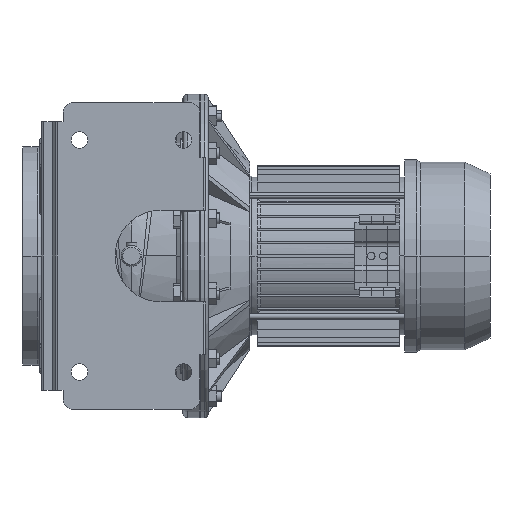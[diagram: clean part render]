
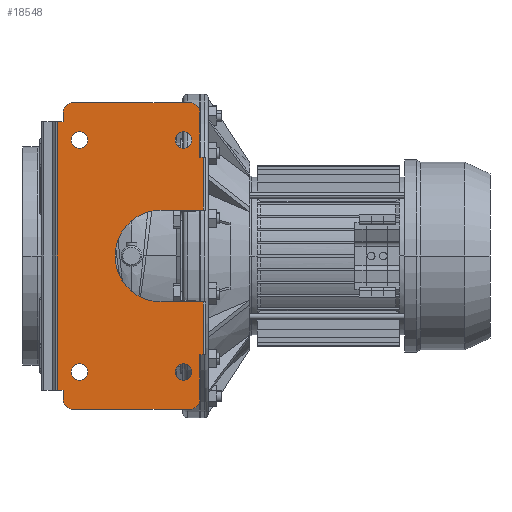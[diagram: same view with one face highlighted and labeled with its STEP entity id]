
A CAD part, front view. The second image highlights one B-rep face of the part: STEP entity #18548.
In plain terms, the highlighted planar face has unit normal (0, -1, 0).
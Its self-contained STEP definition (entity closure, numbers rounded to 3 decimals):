
#15609=CARTESIAN_POINT('',(47.5,-160.,-106.));
#15610=DIRECTION('',(0.,-1.,0.));
#15611=DIRECTION('',(1.,0.,0.));
#15612=AXIS2_PLACEMENT_3D('',#15609,#15610,#15611);
#15614=CARTESIAN_POINT('',(47.5,-160.,-106.));
#15615=DIRECTION('',(0.,-1.,0.));
#15616=DIRECTION('',(-1.,0.,0.));
#15617=AXIS2_PLACEMENT_3D('',#15614,#15615,#15616);
#15619=CARTESIAN_POINT('',(-47.5,-160.,-106.));
#15620=DIRECTION('',(0.,-1.,0.));
#15621=DIRECTION('',(1.,0.,0.));
#15622=AXIS2_PLACEMENT_3D('',#15619,#15620,#15621);
#15624=CARTESIAN_POINT('',(-47.5,-160.,-106.));
#15625=DIRECTION('',(0.,-1.,0.));
#15626=DIRECTION('',(-1.,0.,0.));
#15627=AXIS2_PLACEMENT_3D('',#15624,#15625,#15626);
#15629=CARTESIAN_POINT('',(47.5,-160.,106.));
#15630=DIRECTION('',(0.,-1.,0.));
#15631=DIRECTION('',(1.,0.,0.));
#15632=AXIS2_PLACEMENT_3D('',#15629,#15630,#15631);
#15634=CARTESIAN_POINT('',(47.5,-160.,106.));
#15635=DIRECTION('',(0.,-1.,0.));
#15636=DIRECTION('',(-1.,0.,0.));
#15637=AXIS2_PLACEMENT_3D('',#15634,#15635,#15636);
#15639=CARTESIAN_POINT('',(-47.5,-160.,106.));
#15640=DIRECTION('',(0.,-1.,0.));
#15641=DIRECTION('',(1.,0.,0.));
#15642=AXIS2_PLACEMENT_3D('',#15639,#15640,#15641);
#15644=CARTESIAN_POINT('',(-47.5,-160.,106.));
#15645=DIRECTION('',(0.,-1.,0.));
#15646=DIRECTION('',(-1.,0.,0.));
#15647=AXIS2_PLACEMENT_3D('',#15644,#15645,#15646);
#15649=DIRECTION('',(0.,0.,1.));
#15650=VECTOR('',#15649,48.);
#15651=CARTESIAN_POINT('',(65.5,-160.,-90.));
#15652=LINE('',#15651,#15650);
#15653=DIRECTION('',(0.,0.,-1.));
#15654=VECTOR('',#15653,41.);
#15655=CARTESIAN_POINT('',(62.5,-160.,-90.));
#15656=LINE('',#15655,#15654);
#15657=CARTESIAN_POINT('',(53.5,-160.,-131.));
#15658=DIRECTION('',(0.,-1.,0.));
#15659=DIRECTION('',(0.,0.,-1.));
#15660=AXIS2_PLACEMENT_3D('',#15657,#15658,#15659);
#15662=DIRECTION('',(-1.,0.,0.));
#15663=VECTOR('',#15662,107.);
#15664=CARTESIAN_POINT('',(53.5,-160.,-140.));
#15665=LINE('',#15664,#15663);
#15666=CARTESIAN_POINT('',(-53.5,-160.,-131.));
#15667=DIRECTION('',(0.,-1.,0.));
#15668=DIRECTION('',(-1.,0.,0.));
#15669=AXIS2_PLACEMENT_3D('',#15666,#15667,#15668);
#15671=DIRECTION('',(0.,0.,1.));
#15672=VECTOR('',#15671,8.5);
#15673=CARTESIAN_POINT('',(-62.5,-160.,-131.));
#15674=LINE('',#15673,#15672);
#15675=DIRECTION('',(-1.,0.,0.));
#15676=VECTOR('',#15675,5.172);
#15677=CARTESIAN_POINT('',(-62.5,-160.,-122.5));
#15678=LINE('',#15677,#15676);
#15679=DIRECTION('',(0.,0.,-1.));
#15680=VECTOR('',#15679,245.);
#15681=CARTESIAN_POINT('',(-67.672,-160.,122.5));
#15682=LINE('',#15681,#15680);
#15683=DIRECTION('',(1.,0.,0.));
#15684=VECTOR('',#15683,5.172);
#15685=CARTESIAN_POINT('',(-67.672,-160.,122.5));
#15686=LINE('',#15685,#15684);
#15687=DIRECTION('',(0.,0.,1.));
#15688=VECTOR('',#15687,8.5);
#15689=CARTESIAN_POINT('',(-62.5,-160.,122.5));
#15690=LINE('',#15689,#15688);
#15691=CARTESIAN_POINT('',(-53.5,-160.,131.));
#15692=DIRECTION('',(0.,-1.,0.));
#15693=DIRECTION('',(0.,0.,1.));
#15694=AXIS2_PLACEMENT_3D('',#15691,#15692,#15693);
#15696=DIRECTION('',(1.,0.,0.));
#15697=VECTOR('',#15696,107.);
#15698=CARTESIAN_POINT('',(-53.5,-160.,140.));
#15699=LINE('',#15698,#15697);
#15700=CARTESIAN_POINT('',(53.5,-160.,131.));
#15701=DIRECTION('',(0.,-1.,0.));
#15702=DIRECTION('',(1.,0.,0.));
#15703=AXIS2_PLACEMENT_3D('',#15700,#15701,#15702);
#15705=DIRECTION('',(0.,0.,-1.));
#15706=VECTOR('',#15705,41.);
#15707=CARTESIAN_POINT('',(62.5,-160.,131.));
#15708=LINE('',#15707,#15706);
#15709=DIRECTION('',(0.,0.,1.));
#15710=VECTOR('',#15709,48.);
#15711=CARTESIAN_POINT('',(65.5,-160.,42.));
#15712=LINE('',#15711,#15710);
#15713=CARTESIAN_POINT('',(27.,-160.,0.));
#15714=DIRECTION('',(0.,-1.,0.));
#15715=DIRECTION('',(0.,0.,1.));
#15716=AXIS2_PLACEMENT_3D('',#15713,#15714,#15715);
#15760=DIRECTION('',(1.,0.,0.));
#15761=VECTOR('',#15760,38.5);
#15762=CARTESIAN_POINT('',(27.,-160.,42.));
#15763=LINE('',#15762,#15761);
#15821=DIRECTION('',(-1.,0.,0.));
#15822=VECTOR('',#15821,38.5);
#15823=CARTESIAN_POINT('',(65.5,-160.,-42.));
#15824=LINE('',#15823,#15822);
#16622=DIRECTION('',(1.,0.,0.));
#16623=VECTOR('',#16622,3.);
#16624=CARTESIAN_POINT('',(62.5,-160.,-90.));
#16625=LINE('',#16624,#16623);
#16651=DIRECTION('',(-1.,0.,0.));
#16652=VECTOR('',#16651,3.);
#16653=CARTESIAN_POINT('',(65.5,-160.,90.));
#16654=LINE('',#16653,#16652);
#17395=CARTESIAN_POINT('',(-40.,-160.,106.));
#17396=CARTESIAN_POINT('',(-55.,-160.,106.));
#17397=VERTEX_POINT('',#17395);
#17398=VERTEX_POINT('',#17396);
#17399=CARTESIAN_POINT('',(55.,-160.,106.));
#17400=CARTESIAN_POINT('',(40.,-160.,106.));
#17401=VERTEX_POINT('',#17399);
#17402=VERTEX_POINT('',#17400);
#17403=CARTESIAN_POINT('',(-40.,-160.,-106.));
#17404=CARTESIAN_POINT('',(-55.,-160.,-106.));
#17405=VERTEX_POINT('',#17403);
#17406=VERTEX_POINT('',#17404);
#17407=CARTESIAN_POINT('',(55.,-160.,-106.));
#17408=CARTESIAN_POINT('',(40.,-160.,-106.));
#17409=VERTEX_POINT('',#17407);
#17410=VERTEX_POINT('',#17408);
#17411=CARTESIAN_POINT('',(27.,-160.,42.));
#17412=CARTESIAN_POINT('',(27.,-160.,-42.));
#17413=VERTEX_POINT('',#17411);
#17414=VERTEX_POINT('',#17412);
#17431=CARTESIAN_POINT('',(62.5,-160.,-90.));
#17433=VERTEX_POINT('',#17431);
#17435=CARTESIAN_POINT('',(-62.5,-160.,-122.5));
#17437=VERTEX_POINT('',#17435);
#17439=CARTESIAN_POINT('',(-62.5,-160.,122.5));
#17441=VERTEX_POINT('',#17439);
#17443=CARTESIAN_POINT('',(62.5,-160.,90.));
#17445=VERTEX_POINT('',#17443);
#17452=CARTESIAN_POINT('',(-62.5,-160.,131.));
#17454=VERTEX_POINT('',#17452);
#17457=CARTESIAN_POINT('',(-53.5,-160.,140.));
#17458=VERTEX_POINT('',#17457);
#17460=CARTESIAN_POINT('',(53.5,-160.,140.));
#17462=VERTEX_POINT('',#17460);
#17465=CARTESIAN_POINT('',(62.5,-160.,131.));
#17466=VERTEX_POINT('',#17465);
#17468=CARTESIAN_POINT('',(62.5,-160.,-131.));
#17470=VERTEX_POINT('',#17468);
#17473=CARTESIAN_POINT('',(53.5,-160.,-140.));
#17474=VERTEX_POINT('',#17473);
#17476=CARTESIAN_POINT('',(-53.5,-160.,-140.));
#17478=VERTEX_POINT('',#17476);
#17481=CARTESIAN_POINT('',(-62.5,-160.,-131.));
#17482=VERTEX_POINT('',#17481);
#17591=CARTESIAN_POINT('',(65.5,-160.,42.));
#17593=VERTEX_POINT('',#17591);
#17595=CARTESIAN_POINT('',(65.5,-160.,-42.));
#17597=VERTEX_POINT('',#17595);
#17599=CARTESIAN_POINT('',(65.5,-160.,-90.));
#17600=VERTEX_POINT('',#17599);
#17601=CARTESIAN_POINT('',(65.5,-160.,90.));
#17602=VERTEX_POINT('',#17601);
#17615=CARTESIAN_POINT('',(-67.672,-160.,-122.5));
#17617=VERTEX_POINT('',#17615);
#17621=CARTESIAN_POINT('',(-67.672,-160.,122.5));
#17622=VERTEX_POINT('',#17621);
#18480=CARTESIAN_POINT('',(67.5,-160.,42.));
#18481=DIRECTION('',(0.,1.,0.));
#18482=DIRECTION('',(0.,0.,1.));
#18483=AXIS2_PLACEMENT_3D('',#18480,#18481,#18482);
#18484=PLANE('',#18483);
#18486=ORIENTED_EDGE('',*,*,#18485,.F.);
#18488=ORIENTED_EDGE('',*,*,#18487,.F.);
#18490=ORIENTED_EDGE('',*,*,#18489,.T.);
#18492=ORIENTED_EDGE('',*,*,#18491,.F.);
#18494=ORIENTED_EDGE('',*,*,#18493,.T.);
#18496=ORIENTED_EDGE('',*,*,#18495,.F.);
#18498=ORIENTED_EDGE('',*,*,#18497,.T.);
#18499=ORIENTED_EDGE('',*,*,#18126,.T.);
#18501=ORIENTED_EDGE('',*,*,#18500,.F.);
#18502=ORIENTED_EDGE('',*,*,#18175,.T.);
#18504=ORIENTED_EDGE('',*,*,#18503,.T.);
#18506=ORIENTED_EDGE('',*,*,#18505,.F.);
#18508=ORIENTED_EDGE('',*,*,#18507,.T.);
#18510=ORIENTED_EDGE('',*,*,#18509,.F.);
#18512=ORIENTED_EDGE('',*,*,#18511,.T.);
#18514=ORIENTED_EDGE('',*,*,#18513,.F.);
#18516=ORIENTED_EDGE('',*,*,#18515,.F.);
#18518=ORIENTED_EDGE('',*,*,#18517,.F.);
#18520=ORIENTED_EDGE('',*,*,#18519,.T.);
#18522=ORIENTED_EDGE('',*,*,#18521,.F.);
#18523=EDGE_LOOP('',(#18486,#18488,#18490,#18492,#18494,#18496,#18498,#18499,
#18501,#18502,#18504,#18506,#18508,#18510,#18512,#18514,#18516,#18518,#18520,
#18522));
#18524=FACE_OUTER_BOUND('',#18523,.F.);
#18526=ORIENTED_EDGE('',*,*,#18525,.T.);
#18528=ORIENTED_EDGE('',*,*,#18527,.T.);
#18529=EDGE_LOOP('',(#18526,#18528));
#18530=FACE_BOUND('',#18529,.F.);
#18532=ORIENTED_EDGE('',*,*,#18531,.T.);
#18534=ORIENTED_EDGE('',*,*,#18533,.T.);
#18535=EDGE_LOOP('',(#18532,#18534));
#18536=FACE_BOUND('',#18535,.F.);
#18538=ORIENTED_EDGE('',*,*,#18537,.T.);
#18540=ORIENTED_EDGE('',*,*,#18539,.T.);
#18541=EDGE_LOOP('',(#18538,#18540));
#18542=FACE_BOUND('',#18541,.F.);
#18543=ORIENTED_EDGE('',*,*,#18470,.T.);
#18545=ORIENTED_EDGE('',*,*,#18544,.T.);
#18546=EDGE_LOOP('',(#18543,#18545));
#18547=FACE_BOUND('',#18546,.F.);
#18548=ADVANCED_FACE('',(#18524,#18530,#18536,#18542,#18547),#18484,.F.);
#15613=CIRCLE('',#15612,7.5);
#15618=CIRCLE('',#15617,7.5);
#15623=CIRCLE('',#15622,7.5);
#15628=CIRCLE('',#15627,7.5);
#15633=CIRCLE('',#15632,7.5);
#15638=CIRCLE('',#15637,7.5);
#15643=CIRCLE('',#15642,7.5);
#15648=CIRCLE('',#15647,7.5);
#15661=CIRCLE('',#15660,9.);
#15670=CIRCLE('',#15669,9.);
#15695=CIRCLE('',#15694,9.);
#15704=CIRCLE('',#15703,9.);
#15717=CIRCLE('',#15716,42.);
#18126=EDGE_CURVE('',#17437,#17617,#15678,.T.);
#18175=EDGE_CURVE('',#17622,#17441,#15686,.T.);
#18470=EDGE_CURVE('',#17397,#17398,#15643,.T.);
#18485=EDGE_CURVE('',#17600,#17597,#15652,.T.);
#18487=EDGE_CURVE('',#17433,#17600,#16625,.T.);
#18489=EDGE_CURVE('',#17433,#17470,#15656,.T.);
#18491=EDGE_CURVE('',#17474,#17470,#15661,.T.);
#18493=EDGE_CURVE('',#17474,#17478,#15665,.T.);
#18495=EDGE_CURVE('',#17482,#17478,#15670,.T.);
#18497=EDGE_CURVE('',#17482,#17437,#15674,.T.);
#18500=EDGE_CURVE('',#17622,#17617,#15682,.T.);
#18503=EDGE_CURVE('',#17441,#17454,#15690,.T.);
#18505=EDGE_CURVE('',#17458,#17454,#15695,.T.);
#18507=EDGE_CURVE('',#17458,#17462,#15699,.T.);
#18509=EDGE_CURVE('',#17466,#17462,#15704,.T.);
#18511=EDGE_CURVE('',#17466,#17445,#15708,.T.);
#18513=EDGE_CURVE('',#17602,#17445,#16654,.T.);
#18515=EDGE_CURVE('',#17593,#17602,#15712,.T.);
#18517=EDGE_CURVE('',#17413,#17593,#15763,.T.);
#18519=EDGE_CURVE('',#17413,#17414,#15717,.T.);
#18521=EDGE_CURVE('',#17597,#17414,#15824,.T.);
#18525=EDGE_CURVE('',#17409,#17410,#15613,.T.);
#18527=EDGE_CURVE('',#17410,#17409,#15618,.T.);
#18531=EDGE_CURVE('',#17405,#17406,#15623,.T.);
#18533=EDGE_CURVE('',#17406,#17405,#15628,.T.);
#18537=EDGE_CURVE('',#17401,#17402,#15633,.T.);
#18539=EDGE_CURVE('',#17402,#17401,#15638,.T.);
#18544=EDGE_CURVE('',#17398,#17397,#15648,.T.);
